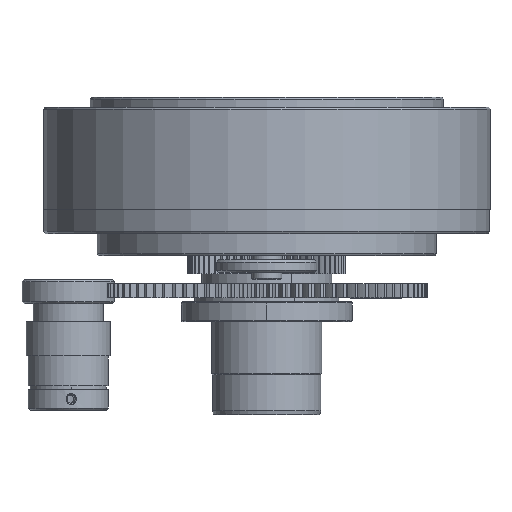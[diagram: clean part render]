
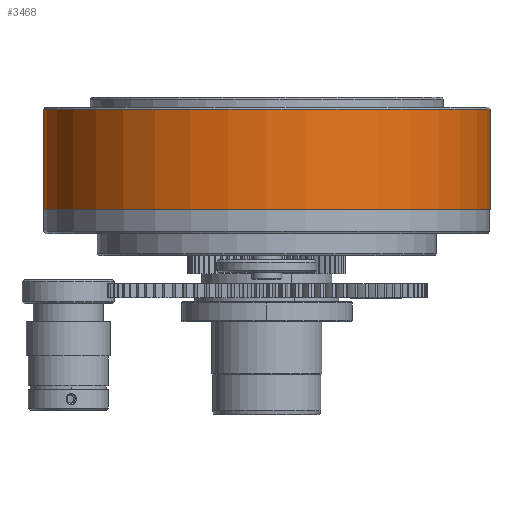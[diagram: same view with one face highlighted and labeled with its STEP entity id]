
A CAD part, front view. The second image highlights one B-rep face of the part: STEP entity #3468.
In plain terms, the highlighted cylindrical face has radius 111.25 mm (diameter 222.5 mm), a partial arc.
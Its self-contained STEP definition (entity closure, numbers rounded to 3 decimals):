
#3412 = AXIS2_PLACEMENT_3D ( 'NONE', #44137, #35336, #71164 ) ;
#3468 = ADVANCED_FACE ( 'NONE', ( #17117 ), #88756, .T. ) ;
#14773 = LINE ( 'NONE', #50587, #67035 ) ;
#15476 = EDGE_CURVE ( 'NONE', #90760, #113657, #94094, .T. ) ;
#15874 = CARTESIAN_POINT ( 'NONE',  ( 0., 1., 0. ) ) ;
#17117 = FACE_OUTER_BOUND ( 'NONE', #90223, .T. ) ;
#22142 = AXIS2_PLACEMENT_3D ( 'NONE', #57954, #38608, #75581 ) ;
#22920 = AXIS2_PLACEMENT_3D ( 'NONE', #15874, #32923, #104578 ) ;
#26590 = ORIENTED_EDGE ( 'NONE', *, *, #101019, .F. ) ;
#30696 = DIRECTION ( 'NONE',  ( 0., 1., 0. ) ) ;
#31248 = DIRECTION ( 'NONE',  ( 0., 1., 0. ) ) ;
#32923 = DIRECTION ( 'NONE',  ( 0., -1., 0. ) ) ;
#33204 = CARTESIAN_POINT ( 'NONE',  ( -111.25, 51., 0. ) ) ;
#35336 = DIRECTION ( 'NONE',  ( 0., 1., 0. ) ) ;
#36201 = EDGE_CURVE ( 'NONE', #90760, #44334, #73621, .T. ) ;
#38608 = DIRECTION ( 'NONE',  ( 0., 1., 0. ) ) ;
#43139 = CARTESIAN_POINT ( 'NONE',  ( 111.25, 51., 0. ) ) ;
#44137 = CARTESIAN_POINT ( 'NONE',  ( 0., 0., 0. ) ) ;
#44334 = VERTEX_POINT ( 'NONE', #62193 ) ;
#50587 = CARTESIAN_POINT ( 'NONE',  ( 111.25, 0., 0. ) ) ;
#57786 = CIRCLE ( 'NONE', #22142, 111.25 ) ;
#57954 = CARTESIAN_POINT ( 'NONE',  ( 0., 51., 0. ) ) ;
#62193 = CARTESIAN_POINT ( 'NONE',  ( 111.25, 1., 0. ) ) ;
#66379 = ORIENTED_EDGE ( 'NONE', *, *, #15476, .T. ) ;
#67035 = VECTOR ( 'NONE', #31248, 1000. ) ;
#71164 = DIRECTION ( 'NONE',  ( 1., 0., 0. ) ) ;
#73621 = CIRCLE ( 'NONE', #22920, 111.25 ) ;
#73706 = ORIENTED_EDGE ( 'NONE', *, *, #36201, .F. ) ;
#75581 = DIRECTION ( 'NONE',  ( 1., 0., 0. ) ) ;
#80302 = VERTEX_POINT ( 'NONE', #43139 ) ;
#88756 = CYLINDRICAL_SURFACE ( 'NONE', #3412, 111.25 ) ;
#90223 = EDGE_LOOP ( 'NONE', ( #73706, #66379, #110578, #26590 ) ) ;
#90760 = VERTEX_POINT ( 'NONE', #95669 ) ;
#94094 = LINE ( 'NONE', #111728, #104882 ) ;
#95669 = CARTESIAN_POINT ( 'NONE',  ( -111.25, 1., 0. ) ) ;
#100249 = EDGE_CURVE ( 'NONE', #80302, #113657, #57786, .T. ) ;
#101019 = EDGE_CURVE ( 'NONE', #44334, #80302, #14773, .T. ) ;
#104578 = DIRECTION ( 'NONE',  ( 1., 0., 0. ) ) ;
#104882 = VECTOR ( 'NONE', #30696, 1000. ) ;
#110578 = ORIENTED_EDGE ( 'NONE', *, *, #100249, .F. ) ;
#111728 = CARTESIAN_POINT ( 'NONE',  ( -111.25, 0., 0. ) ) ;
#113657 = VERTEX_POINT ( 'NONE', #33204 ) ;
